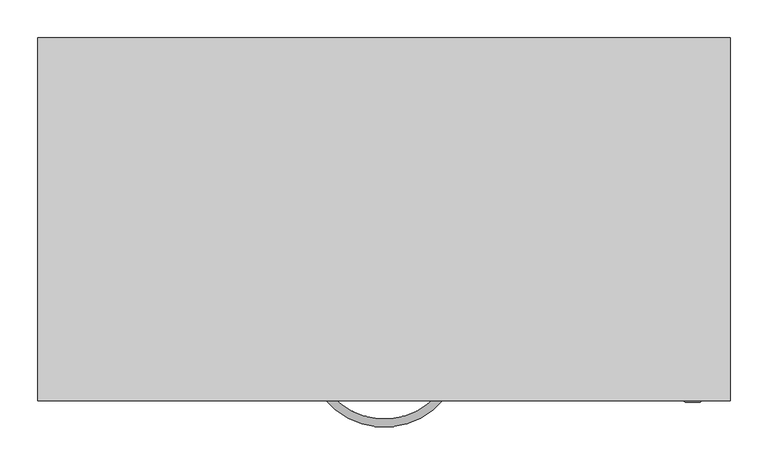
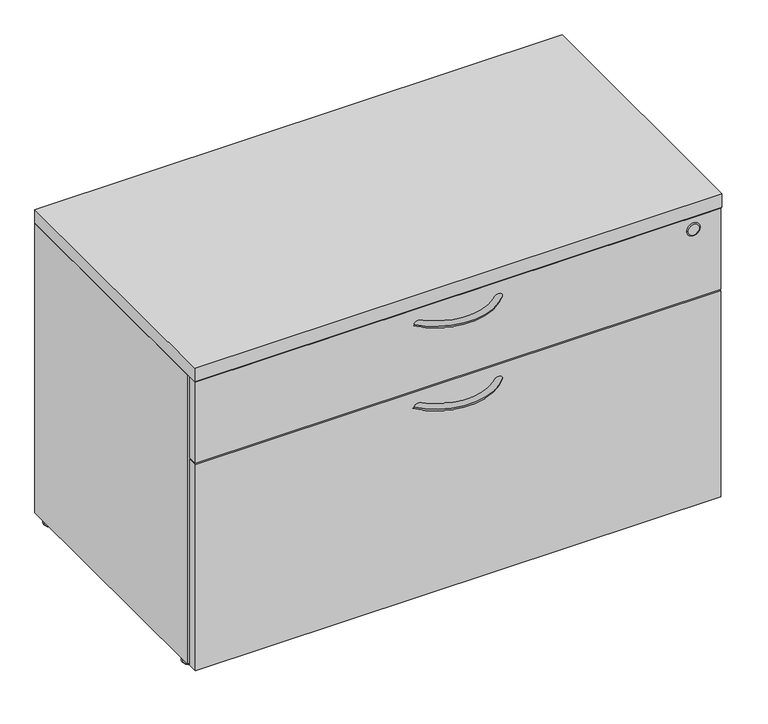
"""IFC4 building model written with IfcOpenShell, lengths in millimetres: furniture geometry, Steelcase - Universal Laminate Enhanced Storage - Low Storage : 1.5 High - Drawer/Drawer - 18 7/8D x 36W."""

from ifc_helpers import new_model, si_unit, point, frame, origin, place, context, project, spatial, polyline, circle_curve, ellipse_curve, trimmed, outline, extrude, source, transform, mapped, element, save
from ifc_brep_helpers import plane_surface, cylinder_surface, revolved_surface, spline_surface, advanced_brep


def furniture_cb8786ba(model_context):
    return source(origin(), model_context, "Body", "SolidModel", [
        extrude(outline(polyline([(888.899231, -22.0971219), (888.899231, -457.3261219), (25.500769, -457.3261219), (25.500769, -22.0971219), (888.899231, -22.0971219)])), frame((0.0, 0.0, 362.0144251), z_axis=(0.0, 0.0, 1.0), x_axis=(1.0, 0.0, 0.0)), (0.0, 0.0, 1.0), 25.4),
        advanced_brep(
        [(378.7963228, -477.3447657, 513.8586235), (386.7663502, -470.6216519, 513.8586235), (536.4141029, -477.3447657, 513.8586235), (528.4440755, -470.6216519, 513.8586235)],
        [
            (0, 1, circle_curve(frame((382.7813365, -473.9832088, 513.8586235), z_axis=(-0.6447814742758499, 0.7643669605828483, 0.0), x_axis=(0.7643669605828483, 0.6447814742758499, 0.0)), 5.2134824)),
            (1, 0, circle_curve(frame((382.7813365, -473.9832088, 513.8586235), z_axis=(-0.6447814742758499, 0.7643669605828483, 0.0), x_axis=(0.7643669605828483, 0.6447814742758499, 0.0)), 5.2134824)),
            (2, 3, circle_curve(frame((532.4290892, -473.9832088, 513.8586235), z_axis=(0.6447814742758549, 0.764366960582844, 0.0), x_axis=(-0.764366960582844, 0.6447814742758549, 0.0)), 5.2134824)),
            (3, 2, circle_curve(frame((532.4290892, -473.9832088, 513.8586235), z_axis=(0.6447814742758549, 0.764366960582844, 0.0), x_axis=(-0.764366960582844, 0.6447814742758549, 0.0)), 5.2134824)),
            (3, 1, circle_curve(frame((457.6052129, -410.8655549, 513.8586235), z_axis=(0.0, 0.0, -1.0), x_axis=(-0.7643669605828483, -0.6447814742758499, 0.0)), 92.6765105)),
            (0, 2, circle_curve(frame((457.6052129, -410.8655549, 513.8586235), z_axis=(0.0, 0.0, 1.0), x_axis=(-0.7643669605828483, -0.6447814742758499, 0.0)), 103.1034753)),
        ],
        [
            plane_surface(frame((386.2831667, -471.0292412, 513.8586235), z_axis=(-0.64478147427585, 0.7643669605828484, 0.0), x_axis=(0.0, 0.0, 1.0))),
            plane_surface(frame((528.927259, -471.0292412, 513.8586235), z_axis=(0.644781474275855, 0.7643669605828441, 0.0), x_axis=(0.0, 0.0, 1.0))),
            revolved_surface(trimmed(ellipse_curve(frame((382.7813365, -473.9832088, 513.8586235), z_axis=(-0.6447814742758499, 0.7643669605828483, 0.0), x_axis=(0.7643669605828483, 0.6447814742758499, 0.0)), 5.2134824, 5.2134824), [point((378.7963228, -477.3447657, 513.8586235))], [point((386.7663502, -470.6216519, 513.8586235))], True, "CARTESIAN"), (457.6052129, -410.8655549, 513.8586235), (0.0, 0.0, 1.0)),
            revolved_surface(trimmed(ellipse_curve(frame((382.7813365, -473.9832088, 513.8586235), z_axis=(-0.6447814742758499, 0.7643669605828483, 0.0), x_axis=(0.7643669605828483, 0.6447814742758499, 0.0)), 5.2134824, 5.2134824), [point((386.7663502, -470.6216519, 513.8586235))], [point((378.7963228, -477.3447657, 513.8586235))], True, "CARTESIAN"), (457.6052129, -410.8655549, 513.8586235), (0.0, 0.0, 1.0)),
        ],
        [
            (0, [[1, 2]]),
            (1, [[3, 4]]),
            (2, [[5, -1, 6, -4]]),
            (3, [[-6, -2, -5, -3]]),
        ],
    ),
        extrude(outline(polyline([(912.876, -479.552), (1.5850353, -479.552), (1.5850353, -463.0820746), (912.876, -463.0820746), (912.876, -479.552)])), frame((0.0, 0.0, 392.1926235), z_axis=(0.0, 0.0, 1.0), x_axis=(1.0, 0.0, 0.0)), (0.0, 0.0, 1.0), 148.844),
        advanced_brep(
        [(855.247853, -481.0763256, 519.001375), (874.551853, -481.0763256, 519.001375), (852.3279567, -479.552, 519.1905487), (877.7279567, -479.552, 519.1905487)],
        [
            (0, 1, circle_curve(frame((864.899853, -481.0763256, 519.001375), z_axis=(0.0, -1.0, 0.0), x_axis=(1.0, 0.0, 0.0)), 9.652)),
            (1, 0, circle_curve(frame((864.899853, -481.0763256, 519.001375), z_axis=(0.0, -1.0, 0.0), x_axis=(1.0, 0.0, 0.0)), 9.652)),
            (2, 3, circle_curve(frame((865.0279567, -479.552, 519.1905487), z_axis=(0.0, 1.0, 0.0), x_axis=(1.0, 0.0, 0.0)), 12.7)),
            (3, 2, circle_curve(frame((865.0279567, -479.552, 519.1905487), z_axis=(0.0, 1.0, 0.0), x_axis=(1.0, 0.0, 0.0)), 12.7)),
            (3, 1),
            (0, 2),
        ],
        [
            plane_surface(frame((864.899853, -481.0763256, 519.001375), z_axis=(0.0, -1.0, 0.0), x_axis=(0.0, 0.0, -1.0))),
            plane_surface(frame((865.0279567, -479.552, 519.1905487), z_axis=(0.0, 1.0, 0.0), x_axis=(0.0, 0.0, -1.0))),
            spline_surface(2, 1, [[(852.3279567, -479.552, 519.1905487), (855.247853, -481.0763256, 519.001375)], [(852.3279567, -479.552, 506.4905487), (855.247853, -481.0763256, 509.349375)], [(865.0279567, -479.552, 506.4905487), (864.899853, -481.0763256, 509.349375)], [(877.7279567, -479.552, 506.4905487), (874.551853, -481.0763256, 509.349375)], [(877.7279567, -479.552, 519.1905487), (874.551853, -481.0763256, 519.001375)]], [3, 2, 3], [2, 2], [0.0, 1.0, 2.0], [0.0, 1.0], weights=[[1.0, 1.0], [0.7071067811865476, 0.7071067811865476], [1.0, 1.0], [0.7071067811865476, 0.7071067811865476], [1.0, 1.0]]),
            spline_surface(2, 1, [[(877.7279567, -479.552, 519.1905487), (874.551853, -481.0763256, 519.001375)], [(877.7279567, -479.552, 531.8905487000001), (874.551853, -481.0763256, 528.6533750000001)], [(865.0279567, -479.552, 531.8905487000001), (864.899853, -481.0763256, 528.6533750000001)], [(852.3279567, -479.552, 531.8905487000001), (855.247853, -481.0763256, 528.6533750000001)], [(852.3279567, -479.552, 519.1905487), (855.247853, -481.0763256, 519.001375)]], [3, 2, 3], [2, 2], [0.0, 1.0, 2.0], [0.0, 1.0], weights=[[1.0, 1.0], [0.7071067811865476, 0.7071067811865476], [1.0, 1.0], [0.7071067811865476, 0.7071067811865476], [1.0, 1.0]]),
        ],
        [
            (0, [[1, 2]]),
            (1, [[3, 4]]),
            (2, [[-4, 5, -1, 6]]),
            (3, [[-3, -6, -2, -5]]),
        ],
    ),
        advanced_brep(
        [(378.7963228, -477.3447657, 362.0144251), (386.7663502, -470.6216519, 362.0144251), (536.4141029, -477.3447657, 362.0144251), (528.4440755, -470.6216519, 362.0144251)],
        [
            (0, 1, circle_curve(frame((382.7813365, -473.9832088, 362.0144251), z_axis=(-0.6447814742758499, 0.7643669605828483, 0.0), x_axis=(0.7643669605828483, 0.6447814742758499, 0.0)), 5.2134824)),
            (1, 0, circle_curve(frame((382.7813365, -473.9832088, 362.0144251), z_axis=(-0.6447814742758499, 0.7643669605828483, 0.0), x_axis=(0.7643669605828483, 0.6447814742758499, 0.0)), 5.2134824)),
            (2, 3, circle_curve(frame((532.4290892, -473.9832088, 362.0144251), z_axis=(0.6447814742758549, 0.764366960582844, 0.0), x_axis=(-0.764366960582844, 0.6447814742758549, 0.0)), 5.2134824)),
            (3, 2, circle_curve(frame((532.4290892, -473.9832088, 362.0144251), z_axis=(0.6447814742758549, 0.764366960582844, 0.0), x_axis=(-0.764366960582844, 0.6447814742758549, 0.0)), 5.2134824)),
            (3, 1, circle_curve(frame((457.6052129, -410.8655549, 362.0144251), z_axis=(0.0, 0.0, -1.0), x_axis=(-0.7643669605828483, -0.6447814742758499, 0.0)), 92.6765105)),
            (0, 2, circle_curve(frame((457.6052129, -410.8655549, 362.0144251), z_axis=(0.0, 0.0, 1.0), x_axis=(-0.7643669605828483, -0.6447814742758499, 0.0)), 103.1034753)),
        ],
        [
            plane_surface(frame((386.2831667, -471.0292412, 362.0144251), z_axis=(-0.64478147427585, 0.7643669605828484, 0.0), x_axis=(0.0, 0.0, 1.0))),
            plane_surface(frame((528.927259, -471.0292412, 362.0144251), z_axis=(0.644781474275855, 0.7643669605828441, 0.0), x_axis=(0.0, 0.0, 1.0))),
            revolved_surface(trimmed(ellipse_curve(frame((382.7813365, -473.9832088, 362.0144251), z_axis=(-0.6447814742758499, 0.7643669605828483, 0.0), x_axis=(0.7643669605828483, 0.6447814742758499, 0.0)), 5.2134824, 5.2134824), [point((378.7963228, -477.3447657, 362.0144251))], [point((386.7663502, -470.6216519, 362.0144251))], True, "CARTESIAN"), (457.6052129, -410.8655549, 362.0144251), (0.0, 0.0, 1.0)),
            revolved_surface(trimmed(ellipse_curve(frame((382.7813365, -473.9832088, 362.0144251), z_axis=(-0.6447814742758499, 0.7643669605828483, 0.0), x_axis=(0.7643669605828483, 0.6447814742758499, 0.0)), 5.2134824, 5.2134824), [point((386.7663502, -470.6216519, 362.0144251))], [point((378.7963228, -477.3447657, 362.0144251))], True, "CARTESIAN"), (457.6052129, -410.8655549, 362.0144251), (0.0, 0.0, 1.0)),
        ],
        [
            (0, [[1, 2]]),
            (1, [[3, 4]]),
            (2, [[5, -1, 6, -4]]),
            (3, [[-6, -2, -5, -3]]),
        ],
    ),
        advanced_brep(
        [(4.4898161, -438.2761219, 0.0), (20.9101839, -438.2761219, 0.0), (12.7, -438.2761219, 0.0), (2.4325396, -438.2761219, 2.0572766), (22.9674604, -438.2761219, 2.0572766), (2.4325396, -438.2761219, 11.43), (22.9674604, -438.2761219, 11.43), (12.7, -438.2761219, 11.43)],
        [
            (0, 1, circle_curve(frame((12.7, -438.2761219, 0.0), z_axis=(0.0, 0.0, -1.0), x_axis=(1.0, 0.0, 0.0)), 8.2101839)),
            (1, 2),
            (2, 0),
            (1, 0, circle_curve(frame((12.7, -438.2761219, 0.0), z_axis=(0.0, 0.0, -1.0), x_axis=(1.0, 0.0, 0.0)), 8.2101839)),
            (3, 4, circle_curve(frame((12.7, -438.2761219, 2.0572766), z_axis=(0.0, 0.0, -1.0), x_axis=(1.0, 0.0, 0.0)), 10.2674604)),
            (4, 1),
            (0, 3),
            (4, 3, circle_curve(frame((12.7, -438.2761219, 2.0572766), z_axis=(0.0, 0.0, -1.0), x_axis=(1.0, 0.0, 0.0)), 10.2674604)),
            (5, 6, circle_curve(frame((12.7, -438.2761219, 11.43), z_axis=(0.0, 0.0, -1.0), x_axis=(1.0, 0.0, 0.0)), 10.2674604)),
            (6, 4),
            (3, 5),
            (6, 5, circle_curve(frame((12.7, -438.2761219, 11.43), z_axis=(0.0, 0.0, -1.0), x_axis=(1.0, 0.0, 0.0)), 10.2674604)),
            (7, 6),
            (5, 7),
        ],
        [
            plane_surface(frame((12.7, -438.2761219, 0.0), z_axis=(0.0, 0.0, -1.0), x_axis=(1.0, 0.0, 0.0))),
            revolved_surface(polyline([(20.9101839, -438.2761219, 0.0), (22.9674604, -438.2761219, 2.0572766)]), (12.7, -438.2761219, 11.43), (0.0, 0.0, 1.0)),
            cylinder_surface(frame((12.7, -438.2761219, 11.43), z_axis=(0.0, 0.0, 1.0), x_axis=(1.0, 0.0, 0.0)), 10.2674604),
            plane_surface(frame((12.7, -438.2761219, 11.43), z_axis=(0.0, 0.0, 1.0), x_axis=(1.0, 0.0, 0.0))),
        ],
        [
            (0, [[1, 2, 3]]),
            (0, [[4, -3, -2]]),
            (1, [[5, 6, -1, 7]]),
            (1, [[8, -7, -4, -6]]),
            (2, [[9, 10, -5, 11]]),
            (2, [[12, -11, -8, -10]]),
            (3, [[13, -9, 14]]),
            (3, [[-14, -12, -13]]),
        ],
    ),
        advanced_brep(
        [(12.7, -22.0971219, 11.43), (22.9674604, -22.0971219, 11.43), (2.4325396, -22.0971219, 11.43), (4.4898161, -22.0971219, 0.0), (20.9101839, -22.0971219, 0.0), (12.7, -22.0971219, 0.0), (2.4325396, -22.0971219, 2.0572766), (22.9674604, -22.0971219, 2.0572766)],
        [
            (0, 1),
            (1, 2, circle_curve(frame((12.7, -22.0971219, 11.43), z_axis=(0.0, 0.0, 1.0), x_axis=(1.0, 0.0, 0.0)), 10.2674604)),
            (2, 0),
            (2, 1, circle_curve(frame((12.7, -22.0971219, 11.43), z_axis=(0.0, 0.0, 1.0), x_axis=(1.0, 0.0, 0.0)), 10.2674604)),
            (3, 4, circle_curve(frame((12.7, -22.0971219, 0.0), z_axis=(0.0, 0.0, -1.0), x_axis=(1.0, 0.0, 0.0)), 8.2101839)),
            (4, 5),
            (5, 3),
            (4, 3, circle_curve(frame((12.7, -22.0971219, 0.0), z_axis=(0.0, 0.0, -1.0), x_axis=(1.0, 0.0, 0.0)), 8.2101839)),
            (6, 7, circle_curve(frame((12.7, -22.0971219, 2.0572766), z_axis=(0.0, 0.0, -1.0), x_axis=(1.0, 0.0, 0.0)), 10.2674604)),
            (7, 4),
            (3, 6),
            (7, 6, circle_curve(frame((12.7, -22.0971219, 2.0572766), z_axis=(0.0, 0.0, -1.0), x_axis=(1.0, 0.0, 0.0)), 10.2674604)),
            (1, 7),
            (6, 2),
        ],
        [
            plane_surface(frame((12.7, -22.0971219, 11.43), z_axis=(0.0, 0.0, 1.0), x_axis=(1.0, 0.0, 0.0))),
            plane_surface(frame((12.7, -22.0971219, 0.0), z_axis=(0.0, 0.0, -1.0), x_axis=(1.0, 0.0, 0.0))),
            revolved_surface(polyline([(20.9101839, -22.0971219, 0.0), (22.9674604, -22.0971219, 2.0572766)]), (12.7, -22.0971219, 24.13), (0.0, 0.0, 1.0)),
            cylinder_surface(frame((12.7, -22.0971219, 24.13), z_axis=(0.0, 0.0, 1.0), x_axis=(1.0, 0.0, 0.0)), 10.2674604),
        ],
        [
            (0, [[1, 2, 3]]),
            (0, [[-3, 4, -1]]),
            (1, [[5, 6, 7]]),
            (1, [[8, -7, -6]]),
            (2, [[9, 10, -5, 11]]),
            (2, [[12, -11, -8, -10]]),
            (3, [[-2, 13, -9, 14]]),
            (3, [[-4, -14, -12, -13]]),
        ],
    ),
        extrude(outline(polyline([(888.899231, -3.1206157), (888.899231, -28.6213848), (25.500769, -28.6213848), (25.500769, -3.1206157), (888.899231, -3.1206157)])), frame((0.0, 0.0, 11.43), z_axis=(0.0, 0.0, 1.0), x_axis=(1.0, 0.0, 0.0)), (0.0, 0.0, 1.0), 530.352),
        extrude(outline(polyline([(25.500769, 0.0), (25.500769, -457.3261219), (0.0, -457.3261219), (0.0, 0.0), (25.500769, 0.0)])), frame((0.0, 0.0, 11.43), z_axis=(0.0, 0.0, 1.0), x_axis=(1.0, 0.0, 0.0)), (0.0, 0.0, 1.0), 530.352),
        extrude(outline(polyline([(888.899231, 0.0), (914.4, 0.0), (914.4, -457.3261219), (888.899231, -457.3261219), (888.899231, 0.0)])), frame((0.0, 0.0, 11.43), z_axis=(0.0, 0.0, 1.0), x_axis=(1.0, 0.0, 0.0)), (0.0, 0.0, 1.0), 530.352),
        extrude(outline(polyline([(912.876, -479.552), (1.5850353, -479.552), (1.5850353, -463.0820746), (912.876, -463.0820746), (912.876, -479.552)])), frame((0.0, 0.0, 11.43), z_axis=(0.0, 0.0, 1.0), x_axis=(1.0, 0.0, 0.0)), (0.0, 0.0, 1.0), 377.7624251),
        advanced_brep(
        [(911.9674604, -22.0971219, 2.0572766), (891.4325396, -22.0971219, 2.0572766), (891.4325396, -22.0971219, 11.43), (911.9674604, -22.0971219, 11.43), (909.9101839, -22.0971219, 0.0), (893.4898161, -22.0971219, 0.0), (901.7, -22.0971219, 0.0), (901.7, -22.0971219, 11.43)],
        [
            (0, 1, circle_curve(frame((901.7, -22.0971219, 2.0572766), z_axis=(0.0, 0.0, 1.0), x_axis=(-1.0, 0.0, 0.0)), 10.2674604)),
            (1, 2),
            (2, 3, circle_curve(frame((901.7, -22.0971219, 11.43), z_axis=(0.0, 0.0, -1.0), x_axis=(-1.0, 0.0, 0.0)), 10.2674604)),
            (3, 0),
            (1, 0, circle_curve(frame((901.7, -22.0971219, 2.0572766), z_axis=(0.0, 0.0, 1.0), x_axis=(-1.0, 0.0, 0.0)), 10.2674604)),
            (3, 2, circle_curve(frame((901.7, -22.0971219, 11.43), z_axis=(0.0, 0.0, -1.0), x_axis=(-1.0, 0.0, 0.0)), 10.2674604)),
            (4, 5, circle_curve(frame((901.7, -22.0971219, 0.0), z_axis=(0.0, 0.0, 1.0), x_axis=(-1.0, 0.0, 0.0)), 8.2101839)),
            (5, 1),
            (0, 4),
            (5, 4, circle_curve(frame((901.7, -22.0971219, 0.0), z_axis=(0.0, 0.0, 1.0), x_axis=(-1.0, 0.0, 0.0)), 8.2101839)),
            (6, 5),
            (4, 6),
            (2, 7),
            (7, 3),
        ],
        [
            cylinder_surface(frame((901.7, -22.0971219, 24.13), z_axis=(0.0, 0.0, -1.0), x_axis=(-1.0, 0.0, 0.0)), 10.2674604),
            revolved_surface(polyline([(891.4325396, -22.0971219, 2.0572766), (893.4898161, -22.0971219, 0.0)]), (901.7, -22.0971219, 24.13), (0.0, 0.0, -1.0)),
            plane_surface(frame((901.7, -22.0971219, 0.0), z_axis=(0.0, 0.0, -1.0), x_axis=(-1.0, 0.0, 0.0))),
            plane_surface(frame((901.7, -22.0971219, 11.43), z_axis=(0.0, 0.0, 1.0), x_axis=(-1.0, 0.0, 0.0))),
        ],
        [
            (0, [[1, 2, 3, 4]]),
            (0, [[5, -4, 6, -2]]),
            (1, [[7, 8, -1, 9]]),
            (1, [[10, -9, -5, -8]]),
            (2, [[11, -7, 12]]),
            (2, [[-12, -10, -11]]),
            (3, [[-3, 13, 14]]),
            (3, [[-6, -14, -13]]),
        ],
    ),
        advanced_brep(
        [(911.9674604, -438.2761219, 11.43), (891.4325396, -438.2761219, 11.43), (901.7, -438.2761219, 11.43), (911.9674604, -438.2761219, 2.0572766), (891.4325396, -438.2761219, 2.0572766), (909.9101839, -438.2761219, 0.0), (893.4898161, -438.2761219, 0.0), (901.7, -438.2761219, 0.0)],
        [
            (0, 1, circle_curve(frame((901.7, -438.2761219, 11.43), z_axis=(0.0, 0.0, 1.0), x_axis=(-1.0, 0.0, 0.0)), 10.2674604)),
            (1, 2),
            (2, 0),
            (1, 0, circle_curve(frame((901.7, -438.2761219, 11.43), z_axis=(0.0, 0.0, 1.0), x_axis=(-1.0, 0.0, 0.0)), 10.2674604)),
            (3, 4, circle_curve(frame((901.7, -438.2761219, 2.0572766), z_axis=(0.0, 0.0, 1.0), x_axis=(-1.0, 0.0, 0.0)), 10.2674604)),
            (4, 1),
            (0, 3),
            (4, 3, circle_curve(frame((901.7, -438.2761219, 2.0572766), z_axis=(0.0, 0.0, 1.0), x_axis=(-1.0, 0.0, 0.0)), 10.2674604)),
            (5, 6, circle_curve(frame((901.7, -438.2761219, 0.0), z_axis=(0.0, 0.0, 1.0), x_axis=(-1.0, 0.0, 0.0)), 8.2101839)),
            (6, 4),
            (3, 5),
            (6, 5, circle_curve(frame((901.7, -438.2761219, 0.0), z_axis=(0.0, 0.0, 1.0), x_axis=(-1.0, 0.0, 0.0)), 8.2101839)),
            (7, 6),
            (5, 7),
        ],
        [
            plane_surface(frame((901.7, -438.2761219, 11.43), z_axis=(0.0, 0.0, 1.0), x_axis=(-1.0, 0.0, 0.0))),
            cylinder_surface(frame((901.7, -438.2761219, 11.43), z_axis=(0.0, 0.0, -1.0), x_axis=(-1.0, 0.0, 0.0)), 10.2674604),
            revolved_surface(polyline([(891.4325396, -438.2761219, 2.0572766), (893.4898161, -438.2761219, 0.0)]), (901.7, -438.2761219, 11.43), (0.0, 0.0, -1.0)),
            plane_surface(frame((901.7, -438.2761219, 0.0), z_axis=(0.0, 0.0, -1.0), x_axis=(-1.0, 0.0, 0.0))),
        ],
        [
            (0, [[1, 2, 3]]),
            (0, [[4, -3, -2]]),
            (1, [[5, 6, -1, 7]]),
            (1, [[8, -7, -4, -6]]),
            (2, [[9, 10, -5, 11]]),
            (2, [[12, -11, -8, -10]]),
            (3, [[13, -9, 14]]),
            (3, [[-14, -12, -13]]),
        ],
    ),
        extrude(outline(polyline([(914.4, 0.0), (914.4, -479.552), (0.0, -479.552), (0.0, 0.0), (914.4, 0.0)])), frame((0.0, 0.0, 541.782), z_axis=(0.0, 0.0, 1.0), x_axis=(1.0, 0.0, 0.0)), (0.0, 0.0, 1.0), 25.4),
        extrude(outline(polyline([(888.899231, 0.0), (888.899231, -457.3261219), (531.2812889, -457.3261219), (25.500769, -457.3261219), (25.500769, 0.0), (888.899231, 0.0)])), frame((0.0, 0.0, 11.43), z_axis=(0.0, 0.0, 1.0), x_axis=(1.0, 0.0, 0.0)), (0.0, 0.0, 1.0), 76.2),
    ])


if __name__ == "__main__":
    model = new_model("IFC4")
    model_context = context("Model", 3, world=origin())
    ifc_project = project(units=[si_unit("LENGTHUNIT", "METRE", prefix="MILLI")], contexts=[model_context])
    site = spatial("IfcSite", under=ifc_project)
    building = spatial("IfcBuilding", under=site)
    placement = place(None, origin())
    furniture_shape = furniture_cb8786ba(model_context)
    element("IfcFurniture", 1, ObjectType="Steelcase - Universal Laminate Enhanced Storage - Low Storage : 1.5 High - Drawer/Drawer - 18 7/8D x 36W", at=placement, inside=building, context=model_context, shape_type="MappedRepresentation", body=[
        mapped(furniture_shape, transform((0.0, 0.0, 0.0), x_axis=(1.0, 0.0, 0.0), y_axis=(0.0, 1.0, 0.0), z_axis=(0.0, 0.0, 1.0))),
    ])
    save(model, "model.ifc")
